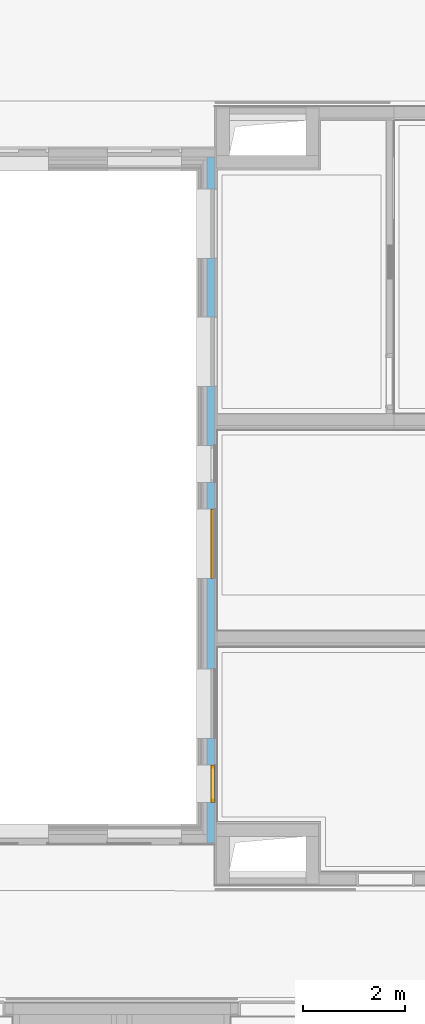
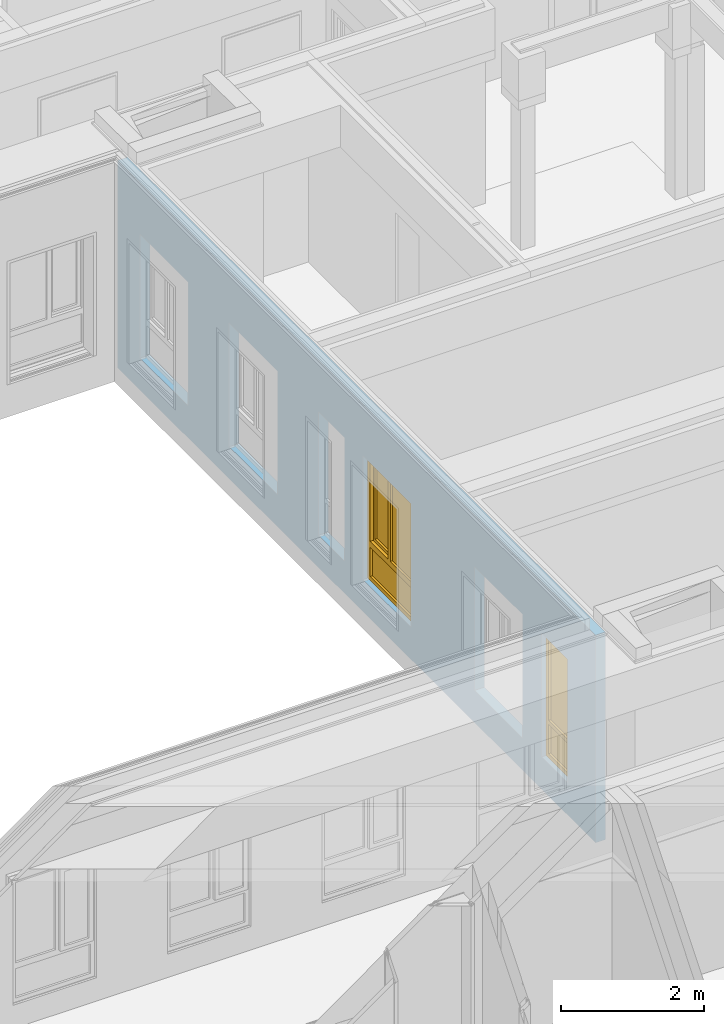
# One storey, part 75 of 222: 2 windows, 6 openings, plus 1 element that does not belong to this part.
"""IFC4 building model written with IfcOpenShell, lengths in metres."""

from ifc_helpers import new_model, entity, si_unit, converted_unit, derived_unit, frame, frame_2d, origin, origin_with_axes, place, context, subcontext, project, spatial, polyline, rectangle, outline, extrude, closed_shell, open_shell, surface_model, source, transform, mapped, material, element, fill, save


model = new_model("IFC4")

# Units and contexts
model_context = context("Model", 3, precision=1e-05, world=origin())
body_context = subcontext(model_context, "Body", "Model", "MODEL_VIEW")
ifc_project = project(units=[si_unit("LENGTHUNIT", "METRE"), si_unit("AREAUNIT", "SQUARE_METRE"), si_unit("VOLUMEUNIT", "CUBIC_METRE"), si_unit("MASSUNIT", "GRAM", prefix="KILO"), converted_unit("PLANEANGLEUNIT", "DEGREE", entity("IfcPlaneAngleMeasure", 0.0174532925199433), si_unit("PLANEANGLEUNIT", "RADIAN"), dimensions=[0, 0, 0, 0, 0, 0, 0]), derived_unit("THERMALTRANSMITTANCEUNIT", [(si_unit("POWERUNIT", "WATT"), 1), (si_unit("THERMODYNAMICTEMPERATUREUNIT", "KELVIN"), -1), (si_unit("LENGTHUNIT", "METRE"), -2)]), derived_unit("VOLUMETRICFLOWRATEUNIT", [(si_unit("LENGTHUNIT", "METRE"), 3), (converted_unit("TIMEUNIT", "hour", entity("IfcTimeMeasure", 3600.0), si_unit("TIMEUNIT", "SECOND"), dimensions=[0, 0, 1, 0, 0, 0, 0]), -1), (si_unit("LENGTHUNIT", "METRE"), -1)])], contexts=[model_context])

# Site, building, storey
site_placement = place(None, origin())
site = spatial("IfcSite", under=ifc_project, at=site_placement, Name="Psychiatrie Neubau Wunstorf", CompositionType="ELEMENT")
building_placement = place(site_placement, origin())
building = spatial("IfcBuilding", under=site, at=building_placement, Name="Neubau H2 Stationsgebäude", CompositionType="ELEMENT")
storey_placement = place(building_placement, frame((0.0, 0.0, 3.6)))
storey = spatial("IfcBuildingStorey", under=building, at=storey_placement, Name="H2 Ebene +1", CompositionType="ELEMENT", Elevation=3.6)

# Wall, openings, windows
ifc_material = material(Name="WA-DL")
wall_placement = place(storey_placement, frame((26.825, 7.45, 0.0), z_axis=(0.0, 0.0, 1.0), x_axis=(5.43320358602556e-16, 1.0, 0.0)))
wall = element("IfcWall", 1, at=wall_placement, inside=storey, material=ifc_material, context=body_context, shape_type="SweptSolid", body=[
    extrude(rectangle(XDim=13.3916528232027, YDim=0.16, at=frame_2d((6.69582641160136, 0.08), x_axis=(1.0, 0.0))), origin_with_axes(), (0.0, 0.0, 1.0), 3.55),
])
opening_1_placement = place(wall_placement, frame((12.765, 0.16, 0.55), z_axis=(0.0, -1.0, 0.0), x_axis=(0.0, 0.0, 1.0)))
element("IfcOpeningElement", 2, at=opening_1_placement, cuts=wall, Name="Fensteröffnung", ObjectType="Opening", context=body_context, shape_type="SweptSolid", body=[
    extrude(outline(polyline([(2.115, 1.35), (2.115, 0.0), (0.0, 0.0), (0.0, 1.35), (2.115, 1.35)])), origin_with_axes(), (0.0, 0.0, 1.0), 0.16),
])
opening_2_placement = place(wall_placement, frame((10.2654401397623, 0.159999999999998, 0.55), z_axis=(0.0, -1.0, 0.0), x_axis=(0.0, 0.0, 1.0)))
element("IfcOpeningElement", 3, at=opening_2_placement, cuts=wall, Name="Fensteröffnung", ObjectType="Opening", context=body_context, shape_type="SweptSolid", body=[
    extrude(outline(polyline([(2.115, 1.35), (2.115, 0.0), (0.0, 0.0), (0.0, 1.35), (2.115, 1.35)])), origin_with_axes(), (0.0, 0.0, 1.0), 0.16),
])
opening_3_placement = place(wall_placement, frame((7.76505754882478, 0.160000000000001, 0.55), z_axis=(0.0, -1.0, 0.0), x_axis=(0.0, 0.0, 1.0)))
element("IfcOpeningElement", 4, at=opening_3_placement, cuts=wall, Name="Fensteröffnung", ObjectType="Opening", context=body_context, shape_type="SweptSolid", body=[
    extrude(outline(polyline([(2.115, 0.725), (2.115, 0.0), (0.0, 0.0), (0.0, 0.725), (2.115, 0.725)])), origin_with_axes(), (0.0, 0.0, 1.0), 0.16),
])
opening_4_placement = place(wall_placement, frame((3.39244477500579, 0.160000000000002, 0.55), z_axis=(0.0, -1.0, 0.0), x_axis=(0.0, 0.0, 1.0)))
element("IfcOpeningElement", 5, at=opening_4_placement, cuts=wall, Name="Fensteröffnung", ObjectType="Opening", context=body_context, shape_type="SweptSolid", body=[
    extrude(outline(polyline([(2.115, 1.35), (2.115, 0.0), (0.0, 0.0), (0.0, 1.35), (2.115, 1.35)])), origin_with_axes(), (0.0, 0.0, 1.0), 0.16),
])
opening_5_placement = place(wall_placement, frame((1.51744478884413, 0.159999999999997, 0.55), z_axis=(0.0, -1.0, 0.0), x_axis=(0.0, 0.0, 1.0)))
opening_5 = element("IfcOpeningElement", 6, at=opening_5_placement, cuts=wall, Name="Fensteröffnung", ObjectType="Opening", context=body_context, shape_type="SweptSolid", body=[
    extrude(outline(polyline([(2.115, 0.725), (2.115, 0.0), (0.0, 0.0), (0.0, 0.725), (2.115, 0.725)])), origin_with_axes(), (0.0, 0.0, 1.0), 0.16),
])
opening_6_placement = place(wall_placement, frame((6.51580066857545, 0.160000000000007, 0.55), z_axis=(0.0, -1.0, 0.0), x_axis=(0.0, 0.0, 1.0)))
opening_6 = element("IfcOpeningElement", 7, at=opening_6_placement, cuts=wall, Name="Fensteröffnung", ObjectType="Opening", context=body_context, shape_type="SweptSolid", body=[
    extrude(outline(polyline([(2.115, 1.35), (2.115, 0.0), (0.0, 0.0), (0.0, 1.35), (2.115, 1.35)])), origin_with_axes(), (0.0, 0.0, 1.0), 0.16),
])
shared_shape_1 = source(origin_with_axes(), body_context, "Body", "SurfaceModel", [
    surface_model("IfcShellBasedSurfaceModel", [(0.725000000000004, 0.0, 2.115), (0.725000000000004, 0.0, 0.0), (0.655000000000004, 0.0, 0.0), (0.655000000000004, 0.0, 2.115), (0.725000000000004, 0.0699999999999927, 0.0), (0.725000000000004, 0.0699999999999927, 2.115), (0.655000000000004, 0.0699999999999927, 2.115), (0.655000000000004, 0.0699999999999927, 0.0)], [closed_shell([[[0, 1, 2, 3]], [[4, 5, 6, 7]], [[1, 0, 5, 4]], [[2, 1, 4, 7]], [[3, 2, 7, 6]], [[0, 3, 6, 5]]], orient=[[False], [False], [False], [False], [False], [False]])]),
    surface_model("IfcShellBasedSurfaceModel", [(0.0700000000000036, 0.0, 2.115), (0.0700000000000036, 0.0, 0.0), (0.0, 0.0, 0.0), (0.0, 0.0, 2.115), (0.0700000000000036, 0.0699999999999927, 0.0), (0.0700000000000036, 0.0699999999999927, 2.115), (0.0, 0.0699999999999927, 2.115), (0.0, 0.0699999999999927, 0.0)], [closed_shell([[[0, 1, 2, 3]], [[4, 5, 6, 7]], [[1, 0, 5, 4]], [[2, 1, 4, 7]], [[3, 2, 7, 6]], [[0, 3, 6, 5]]], orient=[[False], [False], [False], [False], [False], [False]])]),
    surface_model("IfcShellBasedSurfaceModel", [(0.655000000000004, 0.0, 0.07), (0.655000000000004, 0.0, 0.0), (0.0700000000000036, 0.0, 0.0), (0.0700000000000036, 0.0, 0.07), (0.655000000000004, 0.0699999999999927, 0.0), (0.655000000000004, 0.0699999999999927, 0.07), (0.0700000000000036, 0.0699999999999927, 0.07), (0.0700000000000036, 0.0699999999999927, 0.0)], [closed_shell([[[0, 1, 2, 3]], [[4, 5, 6, 7]], [[1, 0, 5, 4]], [[2, 1, 4, 7]], [[3, 2, 7, 6]], [[0, 3, 6, 5]]], orient=[[False], [False], [False], [False], [False], [False]])]),
    surface_model("IfcShellBasedSurfaceModel", [(0.655000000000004, 0.0, 2.115), (0.655000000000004, 0.0, 2.045), (0.0700000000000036, 0.0, 2.045), (0.0700000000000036, 0.0, 2.115), (0.655000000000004, 0.0699999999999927, 2.045), (0.655000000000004, 0.0699999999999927, 2.115), (0.0700000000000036, 0.0699999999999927, 2.115), (0.0700000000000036, 0.0699999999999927, 2.045)], [closed_shell([[[0, 1, 2, 3]], [[4, 5, 6, 7]], [[1, 0, 5, 4]], [[2, 1, 4, 7]], [[3, 2, 7, 6]], [[0, 3, 6, 5]]], orient=[[False], [False], [False], [False], [False], [False]])]),
    surface_model("IfcShellBasedSurfaceModel", [(0.655000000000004, 0.0, 0.64), (0.655000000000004, 0.0, 0.57), (0.0700000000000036, 0.0, 0.57), (0.0700000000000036, 0.0, 0.64), (0.655000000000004, 0.0699999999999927, 0.57), (0.655000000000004, 0.0699999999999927, 0.64), (0.0700000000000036, 0.0699999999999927, 0.64), (0.0700000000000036, 0.0699999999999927, 0.57)], [closed_shell([[[0, 1, 2, 3]], [[4, 5, 6, 7]], [[1, 0, 5, 4]], [[2, 1, 4, 7]], [[3, 2, 7, 6]], [[0, 3, 6, 5]]], orient=[[False], [False], [False], [False], [False], [False]])]),
    surface_model("IfcShellBasedSurfaceModel", [(0.655000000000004, 0.0349999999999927, 0.07), (0.0700000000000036, 0.0349999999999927, 0.07), (0.0700000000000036, 0.0349999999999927, 0.57), (0.655000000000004, 0.0349999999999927, 0.57)], [open_shell([[[0, 1, 2, 3]]], orient=[[False]])]),
    surface_model("IfcShellBasedSurfaceModel", [(0.655000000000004, 0.0349999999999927, 0.64), (0.0700000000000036, 0.0349999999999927, 0.64), (0.0700000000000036, 0.0349999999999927, 2.045), (0.655000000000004, 0.0349999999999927, 2.045)], [open_shell([[[0, 1, 2, 3]]], orient=[[False]])]),
])
window_1_placement = place(opening_5_placement, frame((0.0, 0.0, 0.076), z_axis=(1.0, 0.0, 0.0), x_axis=(0.0, 1.0, 5.43320358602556e-16)))
window_1 = element("IfcWindow", 8, at=window_1_placement, inside=storey, Name="Fenster", OverallHeight=2.115, OverallWidth=0.725, PartitioningType="USERDEFINED", PredefinedType="WINDOW", context=body_context, shape_type="MappedRepresentation", body=[
    mapped(shared_shape_1, transform((0.0, 0.0, 0.0), x_axis=(1.0, 0.0, 0.0), y_axis=(0.0, 1.0, 0.0), z_axis=(0.0, 0.0, 1.0), scale=1.0)),
])
fill(opening_5, window_1)
shared_shape_2 = source(origin_with_axes(), body_context, "Body", "SurfaceModel", [
    surface_model("IfcShellBasedSurfaceModel", [(1.35, 0.0, 2.115), (1.35, 0.0, 0.0), (1.28, 0.0, 0.0), (1.28, 0.0, 2.115), (1.35, 0.0700000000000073, 0.0), (1.35, 0.0700000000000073, 2.115), (1.28, 0.0700000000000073, 2.115), (1.28, 0.0700000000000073, 0.0)], [closed_shell([[[0, 1, 2, 3]], [[4, 5, 6, 7]], [[1, 0, 5, 4]], [[2, 1, 4, 7]], [[3, 2, 7, 6]], [[0, 3, 6, 5]]], orient=[[False], [False], [False], [False], [False], [False]])]),
    surface_model("IfcShellBasedSurfaceModel", [(0.0699999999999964, 0.0, 2.115), (0.0699999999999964, 0.0, 0.0), (0.0, 0.0, 0.0), (0.0, 0.0, 2.115), (0.0699999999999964, 0.0700000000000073, 0.0), (0.0699999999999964, 0.0700000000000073, 2.115), (0.0, 0.0700000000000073, 2.115), (0.0, 0.0700000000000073, 0.0)], [closed_shell([[[0, 1, 2, 3]], [[4, 5, 6, 7]], [[1, 0, 5, 4]], [[2, 1, 4, 7]], [[3, 2, 7, 6]], [[0, 3, 6, 5]]], orient=[[False], [False], [False], [False], [False], [False]])]),
    surface_model("IfcShellBasedSurfaceModel", [(1.28, 0.0, 0.07), (1.28, 0.0, 0.0), (0.0699999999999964, 0.0, 0.0), (0.0699999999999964, 0.0, 0.07), (1.28, 0.0700000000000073, 0.0), (1.28, 0.0700000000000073, 0.07), (0.0699999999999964, 0.0700000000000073, 0.07), (0.0699999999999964, 0.0700000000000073, 0.0)], [closed_shell([[[0, 1, 2, 3]], [[4, 5, 6, 7]], [[1, 0, 5, 4]], [[2, 1, 4, 7]], [[3, 2, 7, 6]], [[0, 3, 6, 5]]], orient=[[False], [False], [False], [False], [False], [False]])]),
    surface_model("IfcShellBasedSurfaceModel", [(1.28, 0.0, 2.115), (1.28, 0.0, 2.045), (0.0699999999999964, 0.0, 2.045), (0.0699999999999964, 0.0, 2.115), (1.28, 0.0700000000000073, 2.045), (1.28, 0.0700000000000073, 2.115), (0.0699999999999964, 0.0700000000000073, 2.115), (0.0699999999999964, 0.0700000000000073, 2.045)], [closed_shell([[[0, 1, 2, 3]], [[4, 5, 6, 7]], [[1, 0, 5, 4]], [[2, 1, 4, 7]], [[3, 2, 7, 6]], [[0, 3, 6, 5]]], orient=[[False], [False], [False], [False], [False], [False]])]),
    surface_model("IfcShellBasedSurfaceModel", [(1.28, 0.0, 0.67), (1.28, 0.0, 0.57), (0.0699999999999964, 0.0, 0.57), (0.0699999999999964, 0.0, 0.67), (1.28, 0.0700000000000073, 0.57), (1.28, 0.0700000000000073, 0.67), (0.0699999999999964, 0.0700000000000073, 0.67), (0.0699999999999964, 0.0700000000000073, 0.57)], [closed_shell([[[0, 1, 2, 3]], [[4, 5, 6, 7]], [[1, 0, 5, 4]], [[2, 1, 4, 7]], [[3, 2, 7, 6]], [[0, 3, 6, 5]]], orient=[[False], [False], [False], [False], [False], [False]])]),
    surface_model("IfcShellBasedSurfaceModel", [(1.28, 0.0350000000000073, 0.07), (0.0699999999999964, 0.0350000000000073, 0.07), (0.0699999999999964, 0.0350000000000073, 0.57), (1.28, 0.0350000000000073, 0.57)], [open_shell([[[0, 1, 2, 3]]], orient=[[False]])]),
    surface_model("IfcShellBasedSurfaceModel", [(0.784299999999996, 0.0, 2.045), (0.784299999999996, 0.0, 0.67), (0.714299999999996, 0.0, 0.67), (0.714299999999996, 0.0, 2.045), (0.784299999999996, 0.0700000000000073, 0.67), (0.784299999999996, 0.0700000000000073, 2.045), (0.714299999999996, 0.0700000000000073, 2.045), (0.714299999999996, 0.0700000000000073, 0.67)], [closed_shell([[[0, 1, 2, 3]], [[4, 5, 6, 7]], [[1, 0, 5, 4]], [[2, 1, 4, 7]], [[3, 2, 7, 6]], [[0, 3, 6, 5]]], orient=[[False], [False], [False], [False], [False], [False]])]),
    surface_model("IfcShellBasedSurfaceModel", [(1.3, -0.0499999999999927, 2.065), (1.3, -0.0499999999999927, 0.65), (1.23, -0.0499999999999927, 0.65), (1.23, -0.0499999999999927, 2.065), (1.3, 0.0200000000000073, 0.65), (1.3, 0.0200000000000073, 2.065), (1.23, 0.0200000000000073, 2.065), (1.23, 0.0200000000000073, 0.65)], [closed_shell([[[0, 1, 2, 3]], [[4, 5, 6, 7]], [[1, 0, 5, 4]], [[2, 1, 4, 7]], [[3, 2, 7, 6]], [[0, 3, 6, 5]]], orient=[[False], [False], [False], [False], [False], [False]])]),
    surface_model("IfcShellBasedSurfaceModel", [(0.834299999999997, -0.0499999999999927, 2.065), (0.834299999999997, -0.0499999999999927, 0.65), (0.764299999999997, -0.0499999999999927, 0.65), (0.764299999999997, -0.0499999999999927, 2.065), (0.834299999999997, 0.0200000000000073, 0.65), (0.834299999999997, 0.0200000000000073, 2.065), (0.764299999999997, 0.0200000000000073, 2.065), (0.764299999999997, 0.0200000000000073, 0.65)], [closed_shell([[[0, 1, 2, 3]], [[4, 5, 6, 7]], [[1, 0, 5, 4]], [[2, 1, 4, 7]], [[3, 2, 7, 6]], [[0, 3, 6, 5]]], orient=[[False], [False], [False], [False], [False], [False]])]),
    surface_model("IfcShellBasedSurfaceModel", [(1.23, -0.0499999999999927, 0.72), (1.23, -0.0499999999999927, 0.65), (0.834299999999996, -0.0499999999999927, 0.65), (0.834299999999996, -0.0499999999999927, 0.72), (1.23, 0.0200000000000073, 0.65), (1.23, 0.0200000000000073, 0.72), (0.834299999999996, 0.0200000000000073, 0.72), (0.834299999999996, 0.0200000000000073, 0.65)], [closed_shell([[[0, 1, 2, 3]], [[4, 5, 6, 7]], [[1, 0, 5, 4]], [[2, 1, 4, 7]], [[3, 2, 7, 6]], [[0, 3, 6, 5]]], orient=[[False], [False], [False], [False], [False], [False]])]),
    surface_model("IfcShellBasedSurfaceModel", [(1.23, -0.0499999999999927, 2.065), (1.23, -0.0499999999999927, 1.995), (0.834299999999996, -0.0499999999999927, 1.995), (0.834299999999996, -0.0499999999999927, 2.065), (1.23, 0.0200000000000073, 1.995), (1.23, 0.0200000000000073, 2.065), (0.834299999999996, 0.0200000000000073, 2.065), (0.834299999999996, 0.0200000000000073, 1.995)], [closed_shell([[[0, 1, 2, 3]], [[4, 5, 6, 7]], [[1, 0, 5, 4]], [[2, 1, 4, 7]], [[3, 2, 7, 6]], [[0, 3, 6, 5]]], orient=[[False], [False], [False], [False], [False], [False]])]),
    surface_model("IfcShellBasedSurfaceModel", [(0.714299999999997, 0.0350000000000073, 0.67), (0.0699999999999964, 0.0350000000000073, 0.67), (0.0699999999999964, 0.0350000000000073, 2.045), (0.714299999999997, 0.0350000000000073, 2.045)], [open_shell([[[0, 1, 2, 3]]], orient=[[False]])]),
    surface_model("IfcShellBasedSurfaceModel", [(1.23, -0.0149999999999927, 0.72), (0.834299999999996, -0.0149999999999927, 0.72), (0.834299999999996, -0.0149999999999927, 1.995), (1.23, -0.0149999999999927, 1.995)], [open_shell([[[0, 1, 2, 3]]], orient=[[False]])]),
])
window_2_placement = place(opening_6_placement, frame((0.0, 1.35, 0.146), z_axis=(1.0, 0.0, 0.0), x_axis=(0.0, -1.0, -5.43320358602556e-16)))
window_2 = element("IfcWindow", 9, at=window_2_placement, inside=storey, Name="Fenster", OverallHeight=2.115, OverallWidth=1.35, PartitioningType="USERDEFINED", PredefinedType="WINDOW", context=body_context, shape_type="MappedRepresentation", body=[
    mapped(shared_shape_2, transform((0.0, 0.0, 0.0), x_axis=(1.0, 0.0, 0.0), y_axis=(0.0, 1.0, 0.0), z_axis=(0.0, 0.0, 1.0), scale=1.0)),
])
fill(opening_6, window_2)

save(model, "model.ifc")
